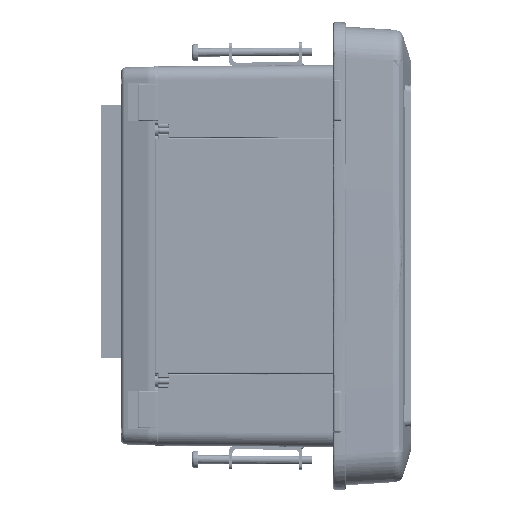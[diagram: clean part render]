
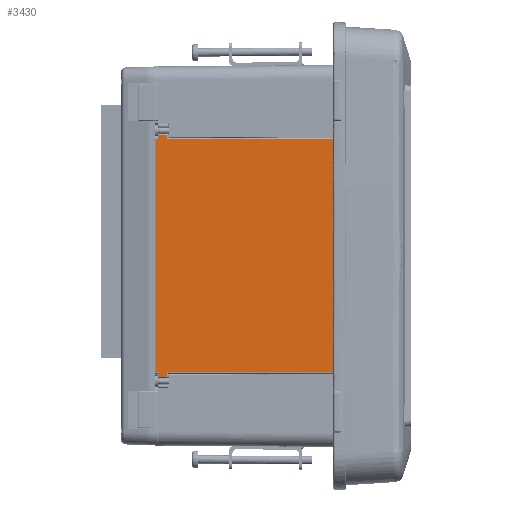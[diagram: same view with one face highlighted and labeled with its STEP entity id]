
A CAD part, front view. The second image highlights one B-rep face of the part: STEP entity #3430.
In plain terms, the highlighted planar face has unit normal (-0.008, -1, 0) as drawn and (0, -1, 0.01) by its records, which use the part's own axes.
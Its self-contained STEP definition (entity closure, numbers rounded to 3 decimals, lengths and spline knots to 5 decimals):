
#3430=ADVANCED_FACE('4025:165',(#13435),#13436,.T.);
#13435=FACE_OUTER_BOUND('',#37308,.T.);
#13436=PLANE('',#37309);
#37308=EDGE_LOOP('',(#71168,#71169,#71170,#71171,#71172,#71173,#71174,#71175,#71176,#71177,#71178,#71179));
#37309=AXIS2_PLACEMENT_3D('',#71180,#71181,#71182);
#71168=ORIENTED_EDGE('',*,*,#119878,.T.);
#71169=ORIENTED_EDGE('',*,*,#119772,.F.);
#71170=ORIENTED_EDGE('',*,*,#119879,.T.);
#71171=ORIENTED_EDGE('',*,*,#119880,.T.);
#71172=ORIENTED_EDGE('',*,*,#119881,.T.);
#71173=ORIENTED_EDGE('',*,*,#119825,.F.);
#71174=ORIENTED_EDGE('',*,*,#119849,.F.);
#71175=ORIENTED_EDGE('',*,*,#119882,.T.);
#71176=ORIENTED_EDGE('',*,*,#119848,.F.);
#71177=ORIENTED_EDGE('',*,*,#119816,.F.);
#71178=ORIENTED_EDGE('',*,*,#119786,.F.);
#71179=ORIENTED_EDGE('',*,*,#119812,.F.);
#71180=CARTESIAN_POINT('',(0.0004,-0.03937,0.04298));
#71181=DIRECTION('',(0.,-1.,0.01));
#71182=DIRECTION('',(0.0,-0.01,-1.));
#119772=EDGE_CURVE('4025:888',#142605,#142600,#142607,.T.);
#119786=EDGE_CURVE('4025:939',#142626,#142588,#142628,.T.);
#119812=EDGE_CURVE('4025:1017',#142669,#142626,#142671,.T.);
#119816=EDGE_CURVE('4025:1029',#142588,#142675,#142677,.T.);
#119825=EDGE_CURVE('4025:1056',#142691,#142684,#142693,.T.);
#119848=EDGE_CURVE('4025:1125',#142675,#142706,#142730,.T.);
#119849=EDGE_CURVE('4025:1128',#142712,#142691,#142731,.T.);
#119878=EDGE_CURVE('4025:1227',#142669,#142600,#142774,.T.);
#119879=EDGE_CURVE('4025:1230',#142605,#142775,#142776,.T.);
#119880=EDGE_CURVE('4025:1233',#142775,#142777,#142778,.T.);
#119881=EDGE_CURVE('4025:1236',#142777,#142684,#142779,.T.);
#119882=EDGE_CURVE('4025:1239',#142712,#142706,#142780,.T.);
#142588=VERTEX_POINT('',#185619);
#142600=VERTEX_POINT('',#185633);
#142605=VERTEX_POINT('',#185639);
#142607=LINE('',#185641,#185642);
#142626=VERTEX_POINT('',#185688);
#142628=LINE('',#185690,#185691);
#142669=VERTEX_POINT('',#185750);
#142671=LINE('',#185764,#185765);
#142675=VERTEX_POINT('',#185770);
#142677=LINE('',#185784,#185785);
#142684=VERTEX_POINT('',#185806);
#142691=VERTEX_POINT('',#185814);
#142693=LINE('',#185816,#185817);
#142706=VERTEX_POINT('',#185831);
#142712=VERTEX_POINT('',#185837);
#142730=LINE('',#185859,#185860);
#142731=LINE('',#185861,#185862);
#142774=LINE('',#185921,#185922);
#142775=VERTEX_POINT('',#185923);
#142776=LINE('',#185924,#185925);
#142777=VERTEX_POINT('',#185926);
#142778=LINE('',#185927,#185928);
#142779=LINE('',#185929,#185930);
#142780=LINE('',#185931,#185932);
#185619=CARTESIAN_POINT('',(-0.0581,-0.03895,0.08513));
#185633=CARTESIAN_POINT('',(-0.05607,-0.03981,-0.00064));
#185639=CARTESIAN_POINT('',(0.05607,-0.03981,-0.00064));
#185641=CARTESIAN_POINT('',(0.05607,-0.03981,-0.00064));
#185642=VECTOR('',#230010,0.11215);
#185688=CARTESIAN_POINT('',(-0.0581,-0.03899,0.08105));
#185690=CARTESIAN_POINT('',(-0.0581,-0.03899,0.08105));
#185691=VECTOR('',#230030,0.00408);
#185750=CARTESIAN_POINT('',(-0.0561,-0.03899,0.08105));
#185764=CARTESIAN_POINT('',(-0.0561,-0.03899,0.08105));
#185765=VECTOR('',#230067,0.002);
#185770=CARTESIAN_POINT('',(-0.0561,-0.03895,0.08513));
#185784=CARTESIAN_POINT('',(-0.0581,-0.03895,0.08513));
#185785=VECTOR('',#230072,0.002);
#185806=CARTESIAN_POINT('',(0.0581,-0.03895,0.08508));
#185814=CARTESIAN_POINT('',(0.0561,-0.03895,0.08508));
#185816=CARTESIAN_POINT('',(0.0561,-0.03895,0.08508));
#185817=VECTOR('',#230086,0.002);
#185831=CARTESIAN_POINT('',(-0.0561,-0.03894,0.0866));
#185837=CARTESIAN_POINT('',(0.0561,-0.03894,0.0866));
#185859=CARTESIAN_POINT('',(-0.0561,-0.03895,0.08513));
#185860=VECTOR('',#230143,0.00147);
#185861=CARTESIAN_POINT('',(0.0561,-0.03894,0.0866));
#185862=VECTOR('',#230144,0.00152);
#185921=CARTESIAN_POINT('',(-0.0561,-0.03899,0.08105));
#185922=VECTOR('',#230197,0.0817);
#185923=CARTESIAN_POINT('',(0.0561,-0.03899,0.0811));
#185924=CARTESIAN_POINT('',(0.05607,-0.03981,-0.00064));
#185925=VECTOR('',#230198,0.08175);
#185926=CARTESIAN_POINT('',(0.0581,-0.03899,0.0811));
#185927=CARTESIAN_POINT('',(0.0561,-0.03899,0.0811));
#185928=VECTOR('',#230199,0.002);
#185929=CARTESIAN_POINT('',(0.0581,-0.03899,0.0811));
#185930=VECTOR('',#230200,0.00398);
#185931=CARTESIAN_POINT('',(0.0561,-0.03894,0.0866));
#185932=VECTOR('',#230201,0.1122);
#230010=DIRECTION('',(-1.0,0.0,0.));
#230030=DIRECTION('',(0.0,0.01,1.));
#230067=DIRECTION('',(-1.0,0.0,0.0));
#230072=DIRECTION('',(1.0,0.0,0.0));
#230086=DIRECTION('',(1.0,0.0,0.));
#230143=DIRECTION('',(0.,0.01,1.));
#230144=DIRECTION('',(0.,-0.01,-1.));
#230197=DIRECTION('',(0.,-0.01,-1.));
#230198=DIRECTION('',(0.,0.01,1.));
#230199=DIRECTION('',(1.0,0.,0.));
#230200=DIRECTION('',(0.0,0.01,1.));
#230201=DIRECTION('',(-1.0,0.0,0.));
